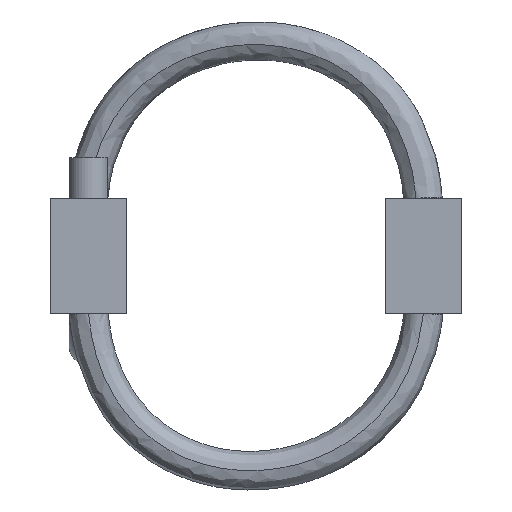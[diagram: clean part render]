
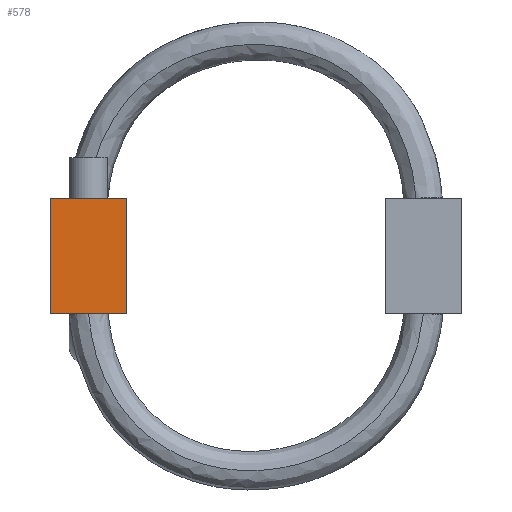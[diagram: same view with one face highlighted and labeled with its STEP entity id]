
A CAD part, left-side view. The second image highlights one B-rep face of the part: STEP entity #578.
In plain terms, the highlighted planar face has unit normal (-1, 0, 0).
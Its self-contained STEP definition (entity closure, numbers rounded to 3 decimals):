
#578 = ADVANCED_FACE ( 'NONE', ( #8235 ), #2418, .T. ) ;
#1098 = ORIENTED_EDGE ( 'NONE', *, *, #5120, .F. ) ;
#1279 = VERTEX_POINT ( 'NONE', #10455 ) ;
#1296 = DIRECTION ( 'NONE',  ( 0., -1., 0. ) ) ;
#1887 = LINE ( 'NONE', #22502, #6610 ) ;
#1954 = DIRECTION ( 'NONE',  ( 0., 1., 0. ) ) ;
#2418 = PLANE ( 'NONE',  #13848 ) ;
#3197 = ORIENTED_EDGE ( 'NONE', *, *, #10747, .F. ) ;
#4045 = CARTESIAN_POINT ( 'NONE',  ( -63.5, 20.75, 0. ) ) ;
#4131 = DIRECTION ( 'NONE',  ( -1., 0., 0. ) ) ;
#4208 = DIRECTION ( 'NONE',  ( 0., 0., 1. ) ) ;
#4295 = CARTESIAN_POINT ( 'NONE',  ( -63.5, 25.5, -7.15 ) ) ;
#4625 = DIRECTION ( 'NONE',  ( 0., 0., 1. ) ) ;
#5120 = EDGE_CURVE ( 'NONE', #14110, #1279, #19492, .T. ) ;
#5650 = CARTESIAN_POINT ( 'NONE',  ( -63.5, 25.5, 7.15 ) ) ;
#6374 = VERTEX_POINT ( 'NONE', #4295 ) ;
#6610 = VECTOR ( 'NONE', #1296, 1000. ) ;
#8235 = FACE_OUTER_BOUND ( 'NONE', #18185, .T. ) ;
#9283 = CARTESIAN_POINT ( 'NONE',  ( -63.5, 16., 7.15 ) ) ;
#10455 = CARTESIAN_POINT ( 'NONE',  ( -63.5, 16., -7.15 ) ) ;
#10672 = ORIENTED_EDGE ( 'NONE', *, *, #11928, .F. ) ;
#10747 = EDGE_CURVE ( 'NONE', #1279, #6374, #18250, .T. ) ;
#11928 = EDGE_CURVE ( 'NONE', #21617, #14110, #1887, .T. ) ;
#13771 = DIRECTION ( 'NONE',  ( 0., 0., -1. ) ) ;
#13848 = AXIS2_PLACEMENT_3D ( 'NONE', #4045, #4131, #4208 ) ;
#14110 = VERTEX_POINT ( 'NONE', #9283 ) ;
#14809 = VECTOR ( 'NONE', #13771, 1000. ) ;
#15551 = CARTESIAN_POINT ( 'NONE',  ( -63.5, 16., -7.15 ) ) ;
#15587 = VECTOR ( 'NONE', #4625, 1000. ) ;
#16111 = CARTESIAN_POINT ( 'NONE',  ( -63.5, 25.5, -7.15 ) ) ;
#16996 = CARTESIAN_POINT ( 'NONE',  ( -63.5, 25.5, -7.15 ) ) ;
#18185 = EDGE_LOOP ( 'NONE', ( #10672, #18432, #3197, #1098 ) ) ;
#18250 = LINE ( 'NONE', #16111, #18794 ) ;
#18432 = ORIENTED_EDGE ( 'NONE', *, *, #22282, .F. ) ;
#18794 = VECTOR ( 'NONE', #1954, 1000. ) ;
#19492 = LINE ( 'NONE', #15551, #14809 ) ;
#19739 = LINE ( 'NONE', #16996, #15587 ) ;
#21617 = VERTEX_POINT ( 'NONE', #5650 ) ;
#22282 = EDGE_CURVE ( 'NONE', #6374, #21617, #19739, .T. ) ;
#22502 = CARTESIAN_POINT ( 'NONE',  ( -63.5, 25.5, 7.15 ) ) ;
